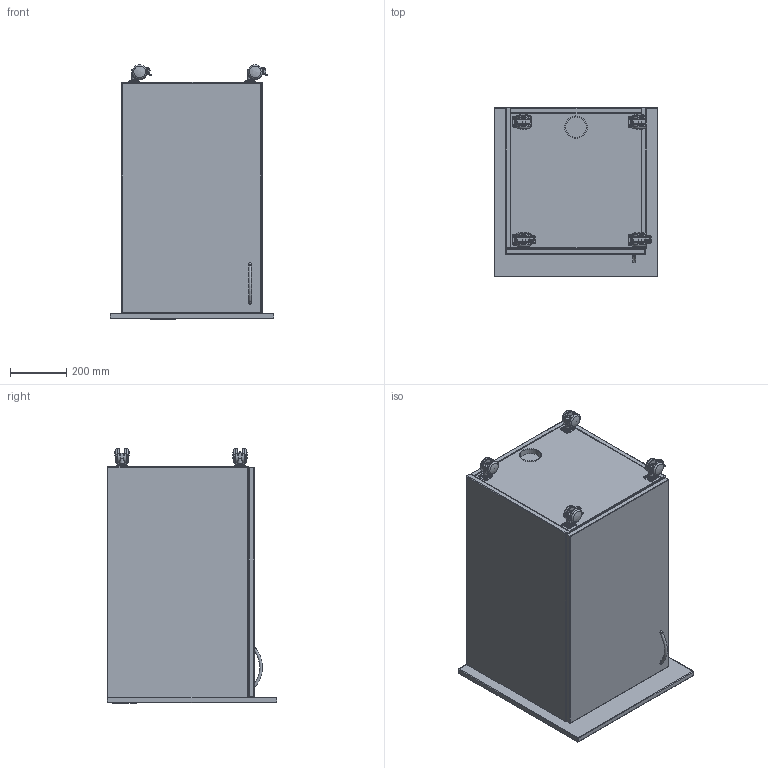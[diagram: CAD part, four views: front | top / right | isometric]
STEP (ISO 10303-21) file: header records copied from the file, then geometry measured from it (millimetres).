
FILE_DESCRIPTION(/* description */ ('Abdeckplatte oben'),/* implementation_level */ '2;1');
FILE_NAME(/* name */ 'C:\CAD-Kunden\Ebinger\500000_Fertigungsteile\530000 - WMF\531100.stp',/* time_stamp */ '2020-01-21T16:17:31+01:00',/* author */ ('Admin'),/* organization */ (''),/* preprocessor_version */ 'ST-DEVELOPER v15.2',/* originating_system */ 'Autodesk Inventor 2014',/* authorisation */ '');
FILE_SCHEMA (('AUTOMOTIVE_DESIGN { 1 0 10303 214 3 1 1 }'));
Length unit declared in the file: millimetre
Products named in the file (26): 531001; 531005; 531008; 531003; 531002; 531010; 531004; 531007; 100655; 100649; 100650; 9511 GR50 HOUSING SIMPLIFIED_5; GR50 HARD WHEEL Simplified_4; 100651; GR50 HARD WHEEL Simplified_3_2; 9511 GR50 HOUSING SIMPLIFIED_4_2; GR50 FB PEDAL Simplified_4_2; 100652; 9209 38 PLATE SIMPLIFIED; 1959 Rivetted_RIVETTED FOR ASSY; 100653; 200104; 100327; 200100; Holzdübel; 531100
Bounding box: 580 x 600 x 901.3 mm (x, y, z)
Volume: 49544849 mm3; surface area: 5733222.8 mm2
Topology: 59 solids, 59 shells, 2239 faces, 5479 edges, 3454 vertices
Faces by surface type: plane 865, cylinder 517, cone 514, torus 193, bspline 76, sphere 74
Full cylindrical faces by diameter (mm): 3.25 x2, 3.621 x2, 3.98 x2, 4 x4, 4.5 x2, 4.567 x16, 5 x108, 6.98 x4, 7 x4, 8 x6, 9 x4, 9.9 x2, 10 x12, 10.2 x4, 12 x4, 13 x12, 13.5 x8, 15 x4, 16 x4, 39 x2, 44 x8, 50 x8, 73 x2, 80 x4, 87 x2
Entity records: 27988 total; most frequent: CARTESIAN_POINT 9838, DIRECTION 3900, ORIENTED_EDGE 3116, AXIS2_PLACEMENT_3D 1695, EDGE_CURVE 1558, EDGE_LOOP 1227, VERTEX_POINT 1109, ADVANCED_FACE 847
